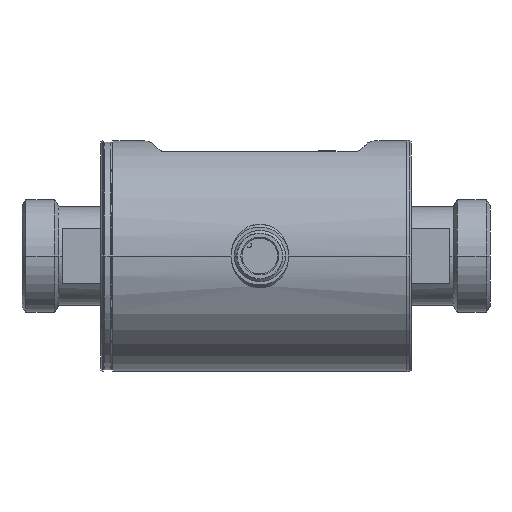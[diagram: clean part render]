
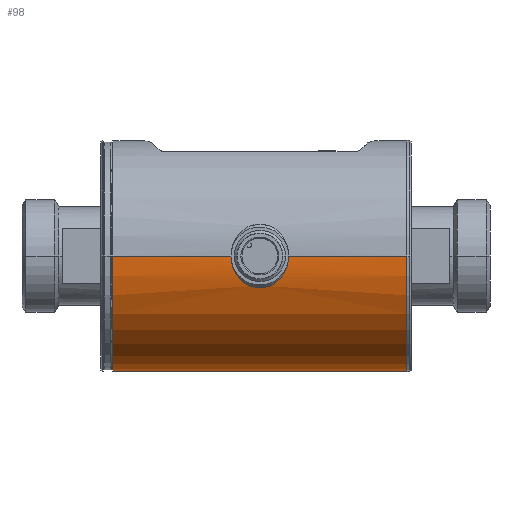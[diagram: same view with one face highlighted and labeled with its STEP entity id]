
A CAD part, front view. The second image highlights one B-rep face of the part: STEP entity #98.
In plain terms, the highlighted cylindrical face has radius 27 mm (diameter 54 mm), a partial arc.
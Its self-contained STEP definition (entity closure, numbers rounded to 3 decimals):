
#98 = ADVANCED_FACE( '', ( #354 ), #355, .T. );
#354 = FACE_OUTER_BOUND( '', #852, .T. );
#355 = CYLINDRICAL_SURFACE( '', #853, 27. );
#852 = EDGE_LOOP( '', ( #1485, #1486, #1487, #1488, #1489, #1490, #1491, #1492 ) );
#853 = AXIS2_PLACEMENT_3D( '', #1493, #1494, #1495 );
#1485 = ORIENTED_EDGE( '', *, *, #3182, .F. );
#1486 = ORIENTED_EDGE( '', *, *, #3183, .T. );
#1487 = ORIENTED_EDGE( '', *, *, #3184, .F. );
#1488 = ORIENTED_EDGE( '', *, *, #3185, .T. );
#1489 = ORIENTED_EDGE( '', *, *, #3186, .T. );
#1490 = ORIENTED_EDGE( '', *, *, #3187, .T. );
#1491 = ORIENTED_EDGE( '', *, *, #3188, .F. );
#1492 = ORIENTED_EDGE( '', *, *, #3189, .F. );
#1493 = CARTESIAN_POINT( '', ( 0., 0., 0. ) );
#1494 = DIRECTION( '', ( 1., 0., 0. ) );
#1495 = DIRECTION( '', ( 0., 1., 0. ) );
#3182 = EDGE_CURVE( '', #3815, #3816, #3817, .T. );
#3183 = EDGE_CURVE( '', #3815, #3818, #3819, .T. );
#3184 = EDGE_CURVE( '', #3820, #3818, #3821, .T. );
#3185 = EDGE_CURVE( '', #3820, #3822, #3823, .T. );
#3186 = EDGE_CURVE( '', #3822, #3824, #3825, .T. );
#3187 = EDGE_CURVE( '', #3824, #3826, #3827, .T. );
#3188 = EDGE_CURVE( '', #3828, #3826, #3829, .T. );
#3189 = EDGE_CURVE( '', #3816, #3828, #3830, .T. );
#3815 = VERTEX_POINT( '', #4844 );
#3816 = VERTEX_POINT( '', #4845 );
#3817 = LINE( '', #4846, #4847 );
#3818 = VERTEX_POINT( '', #4848 );
#3819 = CIRCLE( '', #4849, 27. );
#3820 = VERTEX_POINT( '', #4850 );
#3821 = LINE( '', #4851, #4852 );
#3822 = VERTEX_POINT( '', #4853 );
#3823 = B_SPLINE_CURVE_WITH_KNOTS( '', 3, ( #4854, #4855, #4856, #4857, #4858, #4859, #4860, #4861, #4862, #4863, #4864, #4865, #4866, #4867, #4868, #4869 ), .UNSPECIFIED., .F., .F., ( 4, 2, 2, 2, 2, 2, 2, 4 ), ( 32.547, 33.885, 35.223, 36.561, 37.898, 39.272, 40.646, 41.163 ), .UNSPECIFIED. );
#3824 = VERTEX_POINT( '', #4870 );
#3825 = LINE( '', #4871, #4872 );
#3826 = VERTEX_POINT( '', #4873 );
#3827 = B_SPLINE_CURVE_WITH_KNOTS( '', 3, ( #4874, #4875, #4876, #4877, #4878, #4879, #4880, #4881, #4882, #4883, #4884, #4885, #4886, #4887, #4888, #4889 ), .UNSPECIFIED., .F., .F., ( 4, 2, 2, 2, 2, 2, 2, 4 ), ( 2.236, 2.823, 4.235, 5.647, 6.948, 8.249, 9.55, 10.851 ), .UNSPECIFIED. );
#3828 = VERTEX_POINT( '', #4890 );
#3829 = LINE( '', #4891, #4892 );
#3830 = CIRCLE( '', #4893, 27. );
#4844 = CARTESIAN_POINT( '', ( 34.5, 27., 0. ) );
#4845 = CARTESIAN_POINT( '', ( -34.5, 27., 0. ) );
#4846 = CARTESIAN_POINT( '', ( 0., 27., 0. ) );
#4847 = VECTOR( '', #6123, 1. );
#4848 = CARTESIAN_POINT( '', ( 34.5, -27., 0. ) );
#4849 = AXIS2_PLACEMENT_3D( '', #6124, #6125, #6126 );
#4850 = CARTESIAN_POINT( '', ( 6.778, -27., 0. ) );
#4851 = CARTESIAN_POINT( '', ( 0., -27., 0. ) );
#4852 = VECTOR( '', #6127, 1. );
#4853 = CARTESIAN_POINT( '', ( 2.237, -26.05, -7.099 ) );
#4854 = CARTESIAN_POINT( '', ( 6.778, -27., 0. ) );
#4855 = CARTESIAN_POINT( '', ( 6.778, -27., -0.446 ) );
#4856 = CARTESIAN_POINT( '', ( 6.741, -26.989, -0.909 ) );
#4857 = CARTESIAN_POINT( '', ( 6.584, -26.942, -1.833 ) );
#4858 = CARTESIAN_POINT( '', ( 6.465, -26.906, -2.296 ) );
#4859 = CARTESIAN_POINT( '', ( 6.146, -26.815, -3.189 ) );
#4860 = CARTESIAN_POINT( '', ( 5.946, -26.759, -3.62 ) );
#4861 = CARTESIAN_POINT( '', ( 5.483, -26.638, -4.427 ) );
#4862 = CARTESIAN_POINT( '', ( 5.218, -26.572, -4.802 ) );
#4863 = CARTESIAN_POINT( '', ( 4.64, -26.439, -5.485 ) );
#4864 = CARTESIAN_POINT( '', ( 4.305, -26.368, -5.816 ) );
#4865 = CARTESIAN_POINT( '', ( 3.564, -26.23, -6.407 ) );
#4866 = CARTESIAN_POINT( '', ( 3.158, -26.165, -6.668 ) );
#4867 = CARTESIAN_POINT( '', ( 2.568, -26.088, -6.96 ) );
#4868 = CARTESIAN_POINT( '', ( 2.404, -26.068, -7.033 ) );
#4869 = CARTESIAN_POINT( '', ( 2.237, -26.05, -7.099 ) );
#4870 = CARTESIAN_POINT( '', ( -2.237, -26.05, -7.099 ) );
#4871 = CARTESIAN_POINT( '', ( 0., -26.05, -7.099 ) );
#4872 = VECTOR( '', #6128, 1. );
#4873 = CARTESIAN_POINT( '', ( -6.778, -27., 0. ) );
#4874 = CARTESIAN_POINT( '', ( -2.237, -26.05, -7.099 ) );
#4875 = CARTESIAN_POINT( '', ( -2.426, -26.07, -7.024 ) );
#4876 = CARTESIAN_POINT( '', ( -2.613, -26.093, -6.94 ) );
#4877 = CARTESIAN_POINT( '', ( -3.232, -26.176, -6.625 ) );
#4878 = CARTESIAN_POINT( '', ( -3.644, -26.244, -6.352 ) );
#4879 = CARTESIAN_POINT( '', ( -4.395, -26.386, -5.733 ) );
#4880 = CARTESIAN_POINT( '', ( -4.733, -26.46, -5.388 ) );
#4881 = CARTESIAN_POINT( '', ( -5.297, -26.591, -4.693 ) );
#4882 = CARTESIAN_POINT( '', ( -5.548, -26.655, -4.324 ) );
#4883 = CARTESIAN_POINT( '', ( -5.989, -26.771, -3.532 ) );
#4884 = CARTESIAN_POINT( '', ( -6.178, -26.824, -3.109 ) );
#4885 = CARTESIAN_POINT( '', ( -6.481, -26.911, -2.236 ) );
#4886 = CARTESIAN_POINT( '', ( -6.595, -26.945, -1.785 ) );
#4887 = CARTESIAN_POINT( '', ( -6.743, -26.989, -0.884 ) );
#4888 = CARTESIAN_POINT( '', ( -6.778, -27., -0.434 ) );
#4889 = CARTESIAN_POINT( '', ( -6.778, -27., 0. ) );
#4890 = CARTESIAN_POINT( '', ( -34.5, -27., 0. ) );
#4891 = CARTESIAN_POINT( '', ( 0., -27., 0. ) );
#4892 = VECTOR( '', #6129, 1. );
#4893 = AXIS2_PLACEMENT_3D( '', #6130, #6131, #6132 );
#6123 = DIRECTION( '', ( -1., 0., 0. ) );
#6124 = CARTESIAN_POINT( '', ( 34.5, 0., 0. ) );
#6125 = DIRECTION( '', ( -1., 0., 0. ) );
#6126 = DIRECTION( '', ( 0., 1., 0. ) );
#6127 = DIRECTION( '', ( 1., 0., 0. ) );
#6128 = DIRECTION( '', ( -1., 0., 0. ) );
#6129 = DIRECTION( '', ( 1., 0., 0. ) );
#6130 = CARTESIAN_POINT( '', ( -34.5, 0., 0. ) );
#6131 = DIRECTION( '', ( -1., 0., 0. ) );
#6132 = DIRECTION( '', ( 0., 1., 0. ) );
